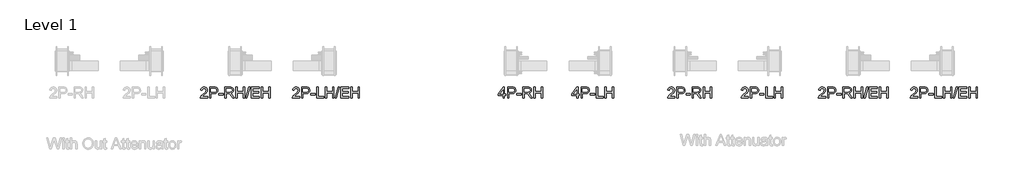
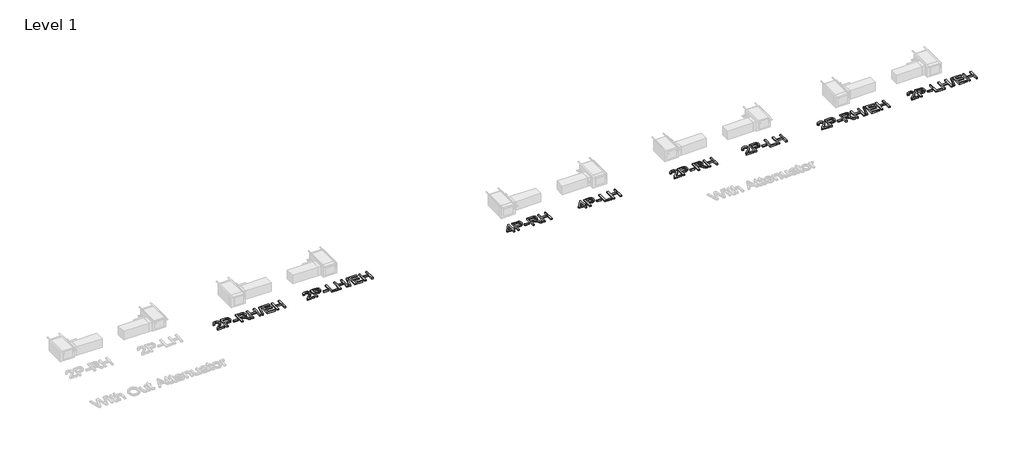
# One storey, part 4 of 4: 8 proxies.
"""IFC4 building model written with IfcOpenShell, lengths in millimetres."""

from ifc_helpers import new_model, si_unit, origin, origin_with_axes, place, context, project, spatial, polyline, outline, extrude, element, save

model = new_model("IFC4")

# Units and contexts
model_context = context("Model", 3, world=origin())
ifc_project = project(units=[si_unit("LENGTHUNIT", "METRE", prefix="MILLI")], contexts=[model_context])

# Site, building, storey
site = spatial("IfcSite", under=ifc_project)
building = spatial("IfcBuilding", under=site)
storey = spatial("IfcBuildingStorey", under=building, Name="Level 1", Elevation=0.0)

# Proxies
placement = place(None, origin())
element("IfcBuildingElementProxy", 1, Name="24\" Arial", ObjectType="24\" Arial", at=placement, inside=storey, context=model_context, shape_type="SweptSolid", body=[
    extrude(outline(polyline([(7491.7448278, 537.1633988), (7491.7448278, 480.0570687), (7191.9365945, 480.0570687), (7193.1913723, 500.1613968), (7198.0710636, 519.4292065), (7212.1524585, 550.1991456), (7232.7586977, 580.0489143), (7262.5666406, 611.2928806), (7304.2531462, 646.2454123), (7365.8766763, 700.9816066), (7402.8507943, 741.3854506), (7421.3378534, 774.1769761), (7427.5002064, 806.0762152), (7421.6864027, 834.6712062), (7404.2449918, 858.4422738), (7391.7285837, 867.7868826), (7377.4345737, 874.4616032), (7343.5137482, 879.8013797), (7307.8920017, 874.587081), (7293.0612257, 868.0692076), (7280.2171811, 858.9441849), (7269.8269241, 847.5187363), (7262.3575109, 834.0995852), (7257.8089416, 818.6867317), (7256.181216, 801.2801757), (7199.0748858, 808.418467), (7203.9859466, 837.8987734), (7212.9192671, 863.6565725), (7225.8748475, 885.6918642), (7242.8526877, 904.0046485), (7263.4624125, 918.3997378), (7287.3136464, 928.6819445), (7314.4063896, 934.8512685), (7344.740642, 936.9077098), (7375.3467629, 934.6212259), (7402.5858968, 927.7617741), (7426.4580437, 916.3293545), (7446.9632037, 900.3239671), (7463.4321618, 880.9306797), (7475.1957033, 859.3345602), (7482.2538282, 835.5356086), (7484.6065365, 809.533825), (7482.069097, 782.2214957), (7474.4567786, 755.3831936), (7460.9470047, 728.0848063), (7440.7171988, 699.3922215), (7408.4694103, 665.1367886), (7358.9056887, 621.149857), (7293.2111019, 566.218475), (7267.4463319, 537.1633988), (7491.7448278, 537.1633988)])), origin_with_axes(), (0.0, 0.0, 1.0), 50.8),
    extrude(outline(polyline([(7570.2660317, 480.0570687), (7570.2660317, 936.9077098), (7739.5773777, 936.9077098), (7807.8372879, 932.5578136), (7838.2726197, 924.4296421), (7863.326349, 911.1987077), (7883.500387, 892.2655054), (7899.2966448, 867.0305305), (7909.5021706, 837.2644135), (7912.9040125, 804.7377856), (7910.6070721, 776.6935026), (7903.7162509, 750.8938776), (7892.2315489, 727.3389106), (7876.1529661, 706.0286016), (7854.079334, 688.3641191), (7824.609484, 675.7466316), (7787.7434163, 668.1761392), (7743.4811307, 665.6526417), (7627.3723619, 665.6526417), (7627.3723619, 480.0570687), (7570.2660317, 480.0570687)]), holes=[polyline([(7627.3723619, 722.7589718), (7746.8272048, 722.7589718), (7797.4644585, 728.0011544), (7816.3418928, 734.5538828), (7830.9251988, 743.7277024), (7841.8069104, 755.2786288), (7849.5795615, 768.9626774), (7854.2431522, 784.7798482), (7855.7976824, 802.7301411), (7852.1309429, 828.3833754), (7841.1307246, 850.0213208), (7824.1633408, 866.3055477), (7802.5951053, 875.8976266), (7745.4887752, 879.8013797), (7627.3723619, 879.8013797), (7627.3723619, 722.7589718)])]), origin_with_axes(), (0.0, 0.0, 1.0), 50.8),
    extrude(outline(polyline([(7955.7337601, 615.6846028), (7955.7337601, 672.7909329), (8134.1910418, 672.7909329), (8134.1910418, 615.6846028), (7955.7337601, 615.6846028)])), origin_with_axes(), (0.0, 0.0, 1.0), 50.8),
    extrude(outline(polyline([(8205.5739545, 480.0570687), (8205.5739545, 936.9077098), (8262.6802846, 936.9077098), (8262.6802846, 537.1633988), (8491.1056052, 537.1633988), (8491.1056052, 480.0570687), (8205.5739545, 480.0570687)])), origin_with_axes(), (0.0, 0.0, 1.0), 50.8),
    extrude(outline(polyline([(8555.3502266, 480.0570687), (8555.3502266, 936.9077098), (8612.4565567, 936.9077098), (8612.4565567, 751.3121369), (8855.1584598, 751.3121369), (8855.1584598, 936.9077098), (8912.26479, 936.9077098), (8912.26479, 480.0570687), (8855.1584598, 480.0570687), (8855.1584598, 694.2058067), (8612.4565567, 694.2058067), (8612.4565567, 480.0570687), (8555.3502266, 480.0570687)])), origin_with_axes(), (0.0, 0.0, 1.0), 50.8),
    extrude(outline(polyline([(8962.2328288, 480.0570687), (9090.7220716, 936.9077098), (9142.2516117, 936.9077098), (9013.7623689, 480.0570687), (8962.2328288, 480.0570687)])), origin_with_axes(), (0.0, 0.0, 1.0), 50.8),
    extrude(outline(polyline([(9190.6581494, 480.0570687), (9190.6581494, 936.9077098), (9519.0195477, 936.9077098), (9519.0195477, 879.8013797), (9247.7644795, 879.8013797), (9247.7644795, 744.1738456), (9504.7429651, 744.1738456), (9504.7429651, 687.0675155), (9247.7644795, 687.0675155), (9247.7644795, 537.1633988), (9526.1578389, 537.1633988), (9526.1578389, 480.0570687), (9190.6581494, 480.0570687)])), origin_with_axes(), (0.0, 0.0, 1.0), 50.8),
    extrude(outline(polyline([(9611.8173341, 480.0570687), (9611.8173341, 936.9077098), (9668.9236643, 936.9077098), (9668.9236643, 751.3121369), (9911.6255674, 751.3121369), (9911.6255674, 936.9077098), (9968.7318975, 936.9077098), (9968.7318975, 480.0570687), (9911.6255674, 480.0570687), (9911.6255674, 694.2058067), (9668.9236643, 694.2058067), (9668.9236643, 480.0570687), (9611.8173341, 480.0570687)])), origin_with_axes(), (0.0, 0.0, 1.0), 50.8),
])
element("IfcBuildingElementProxy", 2, Name="24\" Arial", ObjectType="24\" Arial", at=placement, inside=storey, context=model_context, shape_type="SweptSolid", body=[
    extrude(outline(polyline([(3681.7448278, 537.1633988), (3681.7448278, 480.0570687), (3381.9365945, 480.0570687), (3383.1913723, 500.1613968), (3388.0710636, 519.4292065), (3402.1524585, 550.1991456), (3422.7586977, 580.0489143), (3452.5666406, 611.2928806), (3494.2531462, 646.2454123), (3555.8766763, 700.9816066), (3592.8507943, 741.3854506), (3611.3378534, 774.1769761), (3617.5002064, 806.0762152), (3611.6864027, 834.6712062), (3594.2449918, 858.4422738), (3581.7285837, 867.7868826), (3567.4345737, 874.4616032), (3533.5137482, 879.8013797), (3497.8920017, 874.587081), (3483.0612257, 868.0692076), (3470.2171811, 858.9441849), (3459.8269241, 847.5187363), (3452.3575109, 834.0995852), (3447.8089416, 818.6867317), (3446.181216, 801.2801757), (3389.0748858, 808.418467), (3393.9859466, 837.8987734), (3402.9192671, 863.6565725), (3415.8748475, 885.6918642), (3432.8526877, 904.0046485), (3453.4624125, 918.3997378), (3477.3136464, 928.6819445), (3504.4063896, 934.8512685), (3534.740642, 936.9077098), (3565.3467629, 934.6212259), (3592.5858968, 927.7617741), (3616.4580437, 916.3293545), (3636.9632037, 900.3239671), (3653.4321618, 880.9306797), (3665.1957033, 859.3345602), (3672.2538282, 835.5356086), (3674.6065365, 809.533825), (3672.069097, 782.2214957), (3664.4567786, 755.3831936), (3650.9470047, 728.0848063), (3630.7171988, 699.3922215), (3598.4694103, 665.1367886), (3548.9056887, 621.149857), (3483.2111019, 566.218475), (3457.4463319, 537.1633988), (3681.7448278, 537.1633988)])), origin_with_axes(), (0.0, 0.0, 1.0), 50.8),
    extrude(outline(polyline([(3760.2660317, 480.0570687), (3760.2660317, 936.9077098), (3929.5773777, 936.9077098), (3997.8372879, 932.5578136), (4028.2726197, 924.4296421), (4053.326349, 911.1987077), (4073.500387, 892.2655054), (4089.2966448, 867.0305305), (4099.5021706, 837.2644135), (4102.9040125, 804.7377856), (4100.6070721, 776.6935026), (4093.7162509, 750.8938776), (4082.2315489, 727.3389106), (4066.1529661, 706.0286016), (4044.079334, 688.3641191), (4014.609484, 675.7466316), (3977.7434163, 668.1761392), (3933.4811307, 665.6526417), (3817.3723619, 665.6526417), (3817.3723619, 480.0570687), (3760.2660317, 480.0570687)]), holes=[polyline([(3817.3723619, 722.7589718), (3936.8272048, 722.7589718), (3987.4644585, 728.0011544), (4006.3418928, 734.5538828), (4020.9251988, 743.7277024), (4031.8069104, 755.2786288), (4039.5795615, 768.9626774), (4044.2431522, 784.7798482), (4045.7976824, 802.7301411), (4042.1309429, 828.3833754), (4031.1307246, 850.0213208), (4014.1633408, 866.3055477), (3992.5951053, 875.8976266), (3935.4887752, 879.8013797), (3817.3723619, 879.8013797), (3817.3723619, 722.7589718)])]), origin_with_axes(), (0.0, 0.0, 1.0), 50.8),
    extrude(outline(polyline([(4145.7337601, 615.6846028), (4145.7337601, 672.7909329), (4324.1910418, 672.7909329), (4324.1910418, 615.6846028), (4145.7337601, 615.6846028)])), origin_with_axes(), (0.0, 0.0, 1.0), 50.8),
    extrude(outline(polyline([(4395.5739545, 480.0570687), (4395.5739545, 936.9077098), (4592.4346433, 936.9077098), (4645.344439, 933.8265333), (4683.8382323, 924.5830038), (4711.9731381, 907.5180262), (4733.8062712, 880.9725056), (4747.8179562, 848.0555023), (4752.4885179, 811.8760768), (4750.5540688, 788.4117327), (4744.7507217, 766.8713811), (4735.0784764, 747.2550221), (4721.5373331, 729.5626557), (4703.9530169, 714.3589318), (4682.1512533, 702.2085004), (4656.1320422, 693.1113617), (4625.8953837, 687.0675155), (4658.3523018, 662.641175), (4704.6396592, 603.8618079), (4780.8186113, 480.0570687), (4714.4548097, 480.0570687), (4655.0062277, 574.7509638), (4612.0649443, 637.434084), (4596.1013828, 655.7120134), (4581.8945102, 667.0468392), (4554.7355426, 677.9215798), (4521.6094097, 679.9292242), (4452.6802846, 679.9292242), (4452.6802846, 480.0570687), (4395.5739545, 480.0570687)]), holes=[polyline([(4452.6802846, 737.0355543), (4580.5003126, 737.0355543), (4617.2095332, 739.0571407), (4645.6929884, 745.1218999), (4667.1357461, 755.6341492), (4682.7228743, 770.9982057), (4692.2173594, 789.5828586), (4695.3821877, 809.7568966), (4693.8729689, 824.3611156), (4689.3453125, 837.6129629), (4681.7992184, 849.5124387), (4671.2346868, 860.0595429), (4657.407733, 868.6965965), (4640.0743724, 874.8659205), (4594.888431, 879.8013797), (4452.6802846, 879.8013797), (4452.6802846, 737.0355543)])]), origin_with_axes(), (0.0, 0.0, 1.0), 50.8),
    extrude(outline(polyline([(4852.4245956, 480.0570687), (4852.4245956, 936.9077098), (4909.5309257, 936.9077098), (4909.5309257, 751.3121369), (5152.2328288, 751.3121369), (5152.2328288, 936.9077098), (5209.339159, 936.9077098), (5209.339159, 480.0570687), (5152.2328288, 480.0570687), (5152.2328288, 694.2058067), (4909.5309257, 694.2058067), (4909.5309257, 480.0570687), (4852.4245956, 480.0570687)])), origin_with_axes(), (0.0, 0.0, 1.0), 50.8),
    extrude(outline(polyline([(5259.3071978, 480.0570687), (5387.7964406, 936.9077098), (5439.3259807, 936.9077098), (5310.8367379, 480.0570687), (5259.3071978, 480.0570687)])), origin_with_axes(), (0.0, 0.0, 1.0), 50.8),
    extrude(outline(polyline([(5487.7325184, 480.0570687), (5487.7325184, 936.9077098), (5816.0939167, 936.9077098), (5816.0939167, 879.8013797), (5544.8388485, 879.8013797), (5544.8388485, 744.1738456), (5801.8173341, 744.1738456), (5801.8173341, 687.0675155), (5544.8388485, 687.0675155), (5544.8388485, 537.1633988), (5823.2322079, 537.1633988), (5823.2322079, 480.0570687), (5487.7325184, 480.0570687)])), origin_with_axes(), (0.0, 0.0, 1.0), 50.8),
    extrude(outline(polyline([(5908.8917031, 480.0570687), (5908.8917031, 936.9077098), (5965.9980333, 936.9077098), (5965.9980333, 751.3121369), (6208.6999364, 751.3121369), (6208.6999364, 936.9077098), (6265.8062665, 936.9077098), (6265.8062665, 480.0570687), (6208.6999364, 480.0570687), (6208.6999364, 694.2058067), (5965.9980333, 694.2058067), (5965.9980333, 480.0570687), (5908.8917031, 480.0570687)])), origin_with_axes(), (0.0, 0.0, 1.0), 50.8),
])
element("IfcBuildingElementProxy", 3, Name="24\" Arial", ObjectType="24\" Arial", at=placement, inside=storey, context=model_context, shape_type="SweptSolid", body=[
    extrude(outline(polyline([(481.3448278, 537.1633988), (481.3448278, 480.0570687), (181.5365945, 480.0570687), (182.7913723, 500.1613968), (187.6710636, 519.4292065), (201.7524585, 550.1991456), (222.3586977, 580.0489143), (252.1666406, 611.2928806), (293.8531462, 646.2454123), (355.4766763, 700.9816066), (392.4507943, 741.3854506), (410.9378534, 774.1769761), (417.1002064, 806.0762152), (411.2864027, 834.6712062), (393.8449918, 858.4422738), (381.3285837, 867.7868826), (367.0345737, 874.4616032), (333.1137482, 879.8013797), (297.4920017, 874.587081), (282.6612257, 868.0692076), (269.8171811, 858.9441849), (259.4269241, 847.5187363), (251.9575109, 834.0995852), (247.4089416, 818.6867317), (245.781216, 801.2801757), (188.6748858, 808.418467), (193.5859466, 837.8987734), (202.5192671, 863.6565725), (215.4748475, 885.6918642), (232.4526877, 904.0046485), (253.0624125, 918.3997378), (276.9136464, 928.6819445), (304.0063896, 934.8512685), (334.340642, 936.9077098), (364.9467629, 934.6212259), (392.1858968, 927.7617741), (416.0580437, 916.3293545), (436.5632037, 900.3239671), (453.0321618, 880.9306797), (464.7957033, 859.3345602), (471.8538282, 835.5356086), (474.2065365, 809.533825), (471.669097, 782.2214957), (464.0567786, 755.3831936), (450.5470047, 728.0848063), (430.3171988, 699.3922215), (398.0694103, 665.1367886), (348.5056887, 621.149857), (282.8111019, 566.218475), (257.0463319, 537.1633988), (481.3448278, 537.1633988)])), origin_with_axes(), (0.0, 0.0, 1.0), 50.8),
    extrude(outline(polyline([(559.8660317, 480.0570687), (559.8660317, 936.9077098), (729.1773777, 936.9077098), (797.4372879, 932.5578136), (827.8726197, 924.4296421), (852.926349, 911.1987077), (873.100387, 892.2655054), (888.8966448, 867.0305305), (899.1021706, 837.2644135), (902.5040125, 804.7377856), (900.2070721, 776.6935026), (893.3162509, 750.8938776), (881.8315489, 727.3389106), (865.7529661, 706.0286016), (843.679334, 688.3641191), (814.209484, 675.7466316), (777.3434163, 668.1761392), (733.0811307, 665.6526417), (616.9723619, 665.6526417), (616.9723619, 480.0570687), (559.8660317, 480.0570687)]), holes=[polyline([(616.9723619, 722.7589718), (736.4272048, 722.7589718), (787.0644585, 728.0011544), (805.9418928, 734.5538828), (820.5251988, 743.7277024), (831.4069104, 755.2786288), (839.1795615, 768.9626774), (843.8431522, 784.7798482), (845.3976824, 802.7301411), (841.7309429, 828.3833754), (830.7307246, 850.0213208), (813.7633408, 866.3055477), (792.1951053, 875.8976266), (735.0887752, 879.8013797), (616.9723619, 879.8013797), (616.9723619, 722.7589718)])]), origin_with_axes(), (0.0, 0.0, 1.0), 50.8),
    extrude(outline(polyline([(945.3337601, 615.6846028), (945.3337601, 672.7909329), (1123.7910418, 672.7909329), (1123.7910418, 615.6846028), (945.3337601, 615.6846028)])), origin_with_axes(), (0.0, 0.0, 1.0), 50.8),
    extrude(outline(polyline([(1195.1739545, 480.0570687), (1195.1739545, 936.9077098), (1252.2802846, 936.9077098), (1252.2802846, 537.1633988), (1480.7056052, 537.1633988), (1480.7056052, 480.0570687), (1195.1739545, 480.0570687)])), origin_with_axes(), (0.0, 0.0, 1.0), 50.8),
    extrude(outline(polyline([(1544.9502266, 480.0570687), (1544.9502266, 936.9077098), (1602.0565567, 936.9077098), (1602.0565567, 751.3121369), (1844.7584598, 751.3121369), (1844.7584598, 936.9077098), (1901.86479, 936.9077098), (1901.86479, 480.0570687), (1844.7584598, 480.0570687), (1844.7584598, 694.2058067), (1602.0565567, 694.2058067), (1602.0565567, 480.0570687), (1544.9502266, 480.0570687)])), origin_with_axes(), (0.0, 0.0, 1.0), 50.8),
])
element("IfcBuildingElementProxy", 4, Name="24\" Arial", ObjectType="24\" Arial", at=placement, inside=storey, context=model_context, shape_type="SweptSolid", body=[
    extrude(outline(polyline([(-2566.6551722, 537.1633988), (-2566.6551722, 480.0570687), (-2866.4634055, 480.0570687), (-2865.2086277, 500.1613968), (-2860.3289364, 519.4292065), (-2846.2475415, 550.1991456), (-2825.6413023, 580.0489143), (-2795.8333594, 611.2928806), (-2754.1468538, 646.2454123), (-2692.5233237, 700.9816066), (-2655.5492057, 741.3854506), (-2637.0621466, 774.1769761), (-2630.8997936, 806.0762152), (-2636.7135973, 834.6712062), (-2654.1550082, 858.4422738), (-2666.6714163, 867.7868826), (-2680.9654263, 874.4616032), (-2714.8862518, 879.8013797), (-2750.5079983, 874.587081), (-2765.3387743, 868.0692076), (-2778.1828189, 858.9441849), (-2788.5730759, 847.5187363), (-2796.0424891, 834.0995852), (-2800.5910584, 818.6867317), (-2802.218784, 801.2801757), (-2859.3251142, 808.418467), (-2854.4140534, 837.8987734), (-2845.4807329, 863.6565725), (-2832.5251525, 885.6918642), (-2815.5473123, 904.0046485), (-2794.9375875, 918.3997378), (-2771.0863536, 928.6819445), (-2743.9936104, 934.8512685), (-2713.659358, 936.9077098), (-2683.0532371, 934.6212259), (-2655.8141032, 927.7617741), (-2631.9419563, 916.3293545), (-2611.4367963, 900.3239671), (-2594.9678382, 880.9306797), (-2583.2042967, 859.3345602), (-2576.1461718, 835.5356086), (-2573.7934635, 809.533825), (-2576.330903, 782.2214957), (-2583.9432214, 755.3831936), (-2597.4529953, 728.0848063), (-2617.6828012, 699.3922215), (-2649.9305897, 665.1367886), (-2699.4943113, 621.149857), (-2765.1888981, 566.218475), (-2790.9536681, 537.1633988), (-2566.6551722, 537.1633988)])), origin_with_axes(), (0.0, 0.0, 1.0), 50.8),
    extrude(outline(polyline([(-2488.1339683, 480.0570687), (-2488.1339683, 936.9077098), (-2318.8226223, 936.9077098), (-2250.5627121, 932.5578136), (-2220.1273803, 924.4296421), (-2195.073651, 911.1987077), (-2174.899613, 892.2655054), (-2159.1033552, 867.0305305), (-2148.8978294, 837.2644135), (-2145.4959875, 804.7377856), (-2147.7929279, 776.6935026), (-2154.6837491, 750.8938776), (-2166.1684511, 727.3389106), (-2182.2470339, 706.0286016), (-2204.320666, 688.3641191), (-2233.790516, 675.7466316), (-2270.6565837, 668.1761392), (-2314.9188693, 665.6526417), (-2431.0276381, 665.6526417), (-2431.0276381, 480.0570687), (-2488.1339683, 480.0570687)]), holes=[polyline([(-2431.0276381, 722.7589718), (-2311.5727952, 722.7589718), (-2260.9355415, 728.0011544), (-2242.0581072, 734.5538828), (-2227.4748012, 743.7277024), (-2216.5930896, 755.2786288), (-2208.8204385, 768.9626774), (-2204.1568478, 784.7798482), (-2202.6023176, 802.7301411), (-2206.2690571, 828.3833754), (-2217.2692754, 850.0213208), (-2234.2366592, 866.3055477), (-2255.8048947, 875.8976266), (-2312.9112248, 879.8013797), (-2431.0276381, 879.8013797), (-2431.0276381, 722.7589718)])]), origin_with_axes(), (0.0, 0.0, 1.0), 50.8),
    extrude(outline(polyline([(-2102.6662399, 615.6846028), (-2102.6662399, 672.7909329), (-1924.2089582, 672.7909329), (-1924.2089582, 615.6846028), (-2102.6662399, 615.6846028)])), origin_with_axes(), (0.0, 0.0, 1.0), 50.8),
    extrude(outline(polyline([(-1852.8260455, 480.0570687), (-1852.8260455, 936.9077098), (-1655.9653567, 936.9077098), (-1603.055561, 933.8265333), (-1564.5617677, 924.5830038), (-1536.4268619, 907.5180262), (-1514.5937288, 880.9725056), (-1500.5820438, 848.0555023), (-1495.9114821, 811.8760768), (-1497.8459312, 788.4117327), (-1503.6492783, 766.8713811), (-1513.3215236, 747.2550221), (-1526.8626669, 729.5626557), (-1544.4469831, 714.3589318), (-1566.2487467, 702.2085004), (-1592.2679578, 693.1113617), (-1622.5046163, 687.0675155), (-1590.0476982, 662.641175), (-1543.7603408, 603.8618079), (-1467.5813887, 480.0570687), (-1533.9451903, 480.0570687), (-1593.3937723, 574.7509638), (-1636.3350557, 637.434084), (-1652.2986172, 655.7120134), (-1666.5054898, 667.0468392), (-1693.6644574, 677.9215798), (-1726.7905903, 679.9292242), (-1795.7197154, 679.9292242), (-1795.7197154, 480.0570687), (-1852.8260455, 480.0570687)]), holes=[polyline([(-1795.7197154, 737.0355543), (-1667.8996874, 737.0355543), (-1631.1904668, 739.0571407), (-1602.7070116, 745.1218999), (-1581.2642539, 755.6341492), (-1565.6771257, 770.9982057), (-1556.1826406, 789.5828586), (-1553.0178123, 809.7568966), (-1554.5270311, 824.3611156), (-1559.0546875, 837.6129629), (-1566.6007816, 849.5124387), (-1577.1653132, 860.0595429), (-1590.992267, 868.6965965), (-1608.3256276, 874.8659205), (-1653.511569, 879.8013797), (-1795.7197154, 879.8013797), (-1795.7197154, 737.0355543)])]), origin_with_axes(), (0.0, 0.0, 1.0), 50.8),
    extrude(outline(polyline([(-1395.9754044, 480.0570687), (-1395.9754044, 936.9077098), (-1338.8690743, 936.9077098), (-1338.8690743, 751.3121369), (-1096.1671712, 751.3121369), (-1096.1671712, 936.9077098), (-1039.060841, 936.9077098), (-1039.060841, 480.0570687), (-1096.1671712, 480.0570687), (-1096.1671712, 694.2058067), (-1338.8690743, 694.2058067), (-1338.8690743, 480.0570687), (-1395.9754044, 480.0570687)])), origin_with_axes(), (0.0, 0.0, 1.0), 50.8),
])
element("IfcBuildingElementProxy", 5, Name="24\" Arial", ObjectType="24\" Arial", at=placement, inside=storey, context=model_context, shape_type="SweptSolid", body=[
    extrude(outline(polyline([(-6636.1295412, 480.0570687), (-6636.1295412, 587.1314377), (-6843.139988, 587.1314377), (-6843.139988, 644.2377679), (-6621.8529587, 929.7694185), (-6579.0232111, 929.7694185), (-6579.0232111, 644.2377679), (-6521.916881, 644.2377679), (-6521.916881, 587.1314377), (-6579.0232111, 587.1314377), (-6579.0232111, 480.0570687), (-6636.1295412, 480.0570687)]), holes=[polyline([(-6636.1295412, 644.2377679), (-6636.1295412, 820.6874051), (-6772.8724333, 644.2377679), (-6636.1295412, 644.2377679)])]), origin_with_axes(), (0.0, 0.0, 1.0), 50.8),
    extrude(outline(polyline([(-6450.5339683, 480.0570687), (-6450.5339683, 936.9077098), (-6281.2226223, 936.9077098), (-6212.9627121, 932.5578136), (-6182.5273803, 924.4296421), (-6157.473651, 911.1987077), (-6137.299613, 892.2655054), (-6121.5033552, 867.0305305), (-6111.2978294, 837.2644135), (-6107.8959875, 804.7377856), (-6110.1929279, 776.6935026), (-6117.0837491, 750.8938776), (-6128.5684511, 727.3389106), (-6144.6470339, 706.0286016), (-6166.720666, 688.3641191), (-6196.190516, 675.7466316), (-6233.0565837, 668.1761392), (-6277.3188693, 665.6526417), (-6393.4276381, 665.6526417), (-6393.4276381, 480.0570687), (-6450.5339683, 480.0570687)]), holes=[polyline([(-6393.4276381, 722.7589718), (-6273.9727952, 722.7589718), (-6223.3355415, 728.0011544), (-6204.4581072, 734.5538828), (-6189.8748012, 743.7277024), (-6178.9930896, 755.2786288), (-6171.2204385, 768.9626774), (-6166.5568478, 784.7798482), (-6165.0023176, 802.7301411), (-6168.6690571, 828.3833754), (-6179.6692754, 850.0213208), (-6196.6366592, 866.3055477), (-6218.2048947, 875.8976266), (-6275.3112248, 879.8013797), (-6393.4276381, 879.8013797), (-6393.4276381, 722.7589718)])]), origin_with_axes(), (0.0, 0.0, 1.0), 50.8),
    extrude(outline(polyline([(-6065.0662399, 615.6846028), (-6065.0662399, 672.7909329), (-5886.6089582, 672.7909329), (-5886.6089582, 615.6846028), (-6065.0662399, 615.6846028)])), origin_with_axes(), (0.0, 0.0, 1.0), 50.8),
    extrude(outline(polyline([(-5815.2260455, 480.0570687), (-5815.2260455, 936.9077098), (-5758.1197154, 936.9077098), (-5758.1197154, 537.1633988), (-5529.6943948, 537.1633988), (-5529.6943948, 480.0570687), (-5815.2260455, 480.0570687)])), origin_with_axes(), (0.0, 0.0, 1.0), 50.8),
    extrude(outline(polyline([(-5465.4497734, 480.0570687), (-5465.4497734, 936.9077098), (-5408.3434433, 936.9077098), (-5408.3434433, 751.3121369), (-5165.6415402, 751.3121369), (-5165.6415402, 936.9077098), (-5108.53521, 936.9077098), (-5108.53521, 480.0570687), (-5165.6415402, 480.0570687), (-5165.6415402, 694.2058067), (-5408.3434433, 694.2058067), (-5408.3434433, 480.0570687), (-5465.4497734, 480.0570687)])), origin_with_axes(), (0.0, 0.0, 1.0), 50.8),
])
element("IfcBuildingElementProxy", 6, Name="24\" Arial", ObjectType="24\" Arial", at=placement, inside=storey, context=model_context, shape_type="SweptSolid", body=[
    extrude(outline(polyline([(-9684.1295412, 480.0570687), (-9684.1295412, 587.1314377), (-9891.139988, 587.1314377), (-9891.139988, 644.2377679), (-9669.8529587, 929.7694185), (-9627.0232111, 929.7694185), (-9627.0232111, 644.2377679), (-9569.916881, 644.2377679), (-9569.916881, 587.1314377), (-9627.0232111, 587.1314377), (-9627.0232111, 480.0570687), (-9684.1295412, 480.0570687)]), holes=[polyline([(-9684.1295412, 644.2377679), (-9684.1295412, 820.6874051), (-9820.8724333, 644.2377679), (-9684.1295412, 644.2377679)])]), origin_with_axes(), (0.0, 0.0, 1.0), 50.8),
    extrude(outline(polyline([(-9498.5339683, 480.0570687), (-9498.5339683, 936.9077098), (-9329.2226223, 936.9077098), (-9260.9627121, 932.5578136), (-9230.5273803, 924.4296421), (-9205.473651, 911.1987077), (-9185.299613, 892.2655054), (-9169.5033552, 867.0305305), (-9159.2978294, 837.2644135), (-9155.8959875, 804.7377856), (-9158.1929279, 776.6935026), (-9165.0837491, 750.8938776), (-9176.5684511, 727.3389106), (-9192.6470339, 706.0286016), (-9214.720666, 688.3641191), (-9244.190516, 675.7466316), (-9281.0565837, 668.1761392), (-9325.3188693, 665.6526417), (-9441.4276381, 665.6526417), (-9441.4276381, 480.0570687), (-9498.5339683, 480.0570687)]), holes=[polyline([(-9441.4276381, 722.7589718), (-9321.9727952, 722.7589718), (-9271.3355415, 728.0011544), (-9252.4581072, 734.5538828), (-9237.8748012, 743.7277024), (-9226.9930896, 755.2786288), (-9219.2204385, 768.9626774), (-9214.5568478, 784.7798482), (-9213.0023176, 802.7301411), (-9216.6690571, 828.3833754), (-9227.6692754, 850.0213208), (-9244.6366592, 866.3055477), (-9266.2048947, 875.8976266), (-9323.3112248, 879.8013797), (-9441.4276381, 879.8013797), (-9441.4276381, 722.7589718)])]), origin_with_axes(), (0.0, 0.0, 1.0), 50.8),
    extrude(outline(polyline([(-9113.0662399, 615.6846028), (-9113.0662399, 672.7909329), (-8934.6089582, 672.7909329), (-8934.6089582, 615.6846028), (-9113.0662399, 615.6846028)])), origin_with_axes(), (0.0, 0.0, 1.0), 50.8),
    extrude(outline(polyline([(-8863.2260455, 480.0570687), (-8863.2260455, 936.9077098), (-8666.3653567, 936.9077098), (-8613.455561, 933.8265333), (-8574.9617677, 924.5830038), (-8546.8268619, 907.5180262), (-8524.9937288, 880.9725056), (-8510.9820438, 848.0555023), (-8506.3114821, 811.8760768), (-8508.2459312, 788.4117327), (-8514.0492783, 766.8713811), (-8523.7215236, 747.2550221), (-8537.2626669, 729.5626557), (-8554.8469831, 714.3589318), (-8576.6487467, 702.2085004), (-8602.6679578, 693.1113617), (-8632.9046163, 687.0675155), (-8600.4476982, 662.641175), (-8554.1603408, 603.8618079), (-8477.9813887, 480.0570687), (-8544.3451903, 480.0570687), (-8603.7937723, 574.7509638), (-8646.7350557, 637.434084), (-8662.6986172, 655.7120134), (-8676.9054898, 667.0468392), (-8704.0644574, 677.9215798), (-8737.1905903, 679.9292242), (-8806.1197154, 679.9292242), (-8806.1197154, 480.0570687), (-8863.2260455, 480.0570687)]), holes=[polyline([(-8806.1197154, 737.0355543), (-8678.2996874, 737.0355543), (-8641.5904668, 739.0571407), (-8613.1070116, 745.1218999), (-8591.6642539, 755.6341492), (-8576.0771257, 770.9982057), (-8566.5826406, 789.5828586), (-8563.4178123, 809.7568966), (-8564.9270311, 824.3611156), (-8569.4546875, 837.6129629), (-8577.0007816, 849.5124387), (-8587.5653132, 860.0595429), (-8601.392267, 868.6965965), (-8618.7256276, 874.8659205), (-8663.911569, 879.8013797), (-8806.1197154, 879.8013797), (-8806.1197154, 737.0355543)])]), origin_with_axes(), (0.0, 0.0, 1.0), 50.8),
    extrude(outline(polyline([(-8406.3754044, 480.0570687), (-8406.3754044, 936.9077098), (-8349.2690743, 936.9077098), (-8349.2690743, 751.3121369), (-8106.5671712, 751.3121369), (-8106.5671712, 936.9077098), (-8049.460841, 936.9077098), (-8049.460841, 480.0570687), (-8106.5671712, 480.0570687), (-8106.5671712, 694.2058067), (-8349.2690743, 694.2058067), (-8349.2690743, 480.0570687), (-8406.3754044, 480.0570687)])), origin_with_axes(), (0.0, 0.0, 1.0), 50.8),
])
element("IfcBuildingElementProxy", 7, Name="24\" Arial", ObjectType="24\" Arial", at=placement, inside=storey, context=model_context, shape_type="SweptSolid", body=[
    extrude(outline(polyline([(-18111.4551722, 537.1633988), (-18111.4551722, 480.0570687), (-18411.2634055, 480.0570687), (-18410.0086277, 500.1613968), (-18405.1289364, 519.4292065), (-18391.0475415, 550.1991456), (-18370.4413023, 580.0489143), (-18340.6333594, 611.2928806), (-18298.9468538, 646.2454123), (-18237.3233237, 700.9816066), (-18200.3492057, 741.3854506), (-18181.8621466, 774.1769761), (-18175.6997936, 806.0762152), (-18181.5135973, 834.6712062), (-18198.9550082, 858.4422738), (-18211.4714163, 867.7868826), (-18225.7654263, 874.4616032), (-18259.6862518, 879.8013797), (-18295.3079983, 874.587081), (-18310.1387743, 868.0692076), (-18322.9828189, 858.9441849), (-18333.3730759, 847.5187363), (-18340.8424891, 834.0995852), (-18345.3910584, 818.6867317), (-18347.018784, 801.2801757), (-18404.1251142, 808.418467), (-18399.2140534, 837.8987734), (-18390.2807329, 863.6565725), (-18377.3251525, 885.6918642), (-18360.3473123, 904.0046485), (-18339.7375875, 918.3997378), (-18315.8863536, 928.6819445), (-18288.7936104, 934.8512685), (-18258.459358, 936.9077098), (-18227.8532371, 934.6212259), (-18200.6141032, 927.7617741), (-18176.7419563, 916.3293545), (-18156.2367963, 900.3239671), (-18139.7678382, 880.9306797), (-18128.0042967, 859.3345602), (-18120.9461718, 835.5356086), (-18118.5934635, 809.533825), (-18121.130903, 782.2214957), (-18128.7432214, 755.3831936), (-18142.2529953, 728.0848063), (-18162.4828012, 699.3922215), (-18194.7305897, 665.1367886), (-18244.2943113, 621.149857), (-18309.9888981, 566.218475), (-18335.7536681, 537.1633988), (-18111.4551722, 537.1633988)])), origin_with_axes(), (0.0, 0.0, 1.0), 50.8),
    extrude(outline(polyline([(-18032.9339683, 480.0570687), (-18032.9339683, 936.9077098), (-17863.6226223, 936.9077098), (-17795.3627121, 932.5578136), (-17764.9273803, 924.4296421), (-17739.873651, 911.1987077), (-17719.699613, 892.2655054), (-17703.9033552, 867.0305305), (-17693.6978294, 837.2644135), (-17690.2959875, 804.7377856), (-17692.5929279, 776.6935026), (-17699.4837491, 750.8938776), (-17710.9684511, 727.3389106), (-17727.0470339, 706.0286016), (-17749.120666, 688.3641191), (-17778.590516, 675.7466316), (-17815.4565837, 668.1761392), (-17859.7188693, 665.6526417), (-17975.8276381, 665.6526417), (-17975.8276381, 480.0570687), (-18032.9339683, 480.0570687)]), holes=[polyline([(-17975.8276381, 722.7589718), (-17856.3727952, 722.7589718), (-17805.7355415, 728.0011544), (-17786.8581072, 734.5538828), (-17772.2748012, 743.7277024), (-17761.3930896, 755.2786288), (-17753.6204385, 768.9626774), (-17748.9568478, 784.7798482), (-17747.4023176, 802.7301411), (-17751.0690571, 828.3833754), (-17762.0692754, 850.0213208), (-17779.0366592, 866.3055477), (-17800.6048947, 875.8976266), (-17857.7112248, 879.8013797), (-17975.8276381, 879.8013797), (-17975.8276381, 722.7589718)])]), origin_with_axes(), (0.0, 0.0, 1.0), 50.8),
    extrude(outline(polyline([(-17647.4662399, 615.6846028), (-17647.4662399, 672.7909329), (-17469.0089582, 672.7909329), (-17469.0089582, 615.6846028), (-17647.4662399, 615.6846028)])), origin_with_axes(), (0.0, 0.0, 1.0), 50.8),
    extrude(outline(polyline([(-17397.6260455, 480.0570687), (-17397.6260455, 936.9077098), (-17340.5197154, 936.9077098), (-17340.5197154, 537.1633988), (-17112.0943948, 537.1633988), (-17112.0943948, 480.0570687), (-17397.6260455, 480.0570687)])), origin_with_axes(), (0.0, 0.0, 1.0), 50.8),
    extrude(outline(polyline([(-17047.8497734, 480.0570687), (-17047.8497734, 936.9077098), (-16990.7434433, 936.9077098), (-16990.7434433, 751.3121369), (-16748.0415402, 751.3121369), (-16748.0415402, 936.9077098), (-16690.93521, 936.9077098), (-16690.93521, 480.0570687), (-16748.0415402, 480.0570687), (-16748.0415402, 694.2058067), (-16990.7434433, 694.2058067), (-16990.7434433, 480.0570687), (-17047.8497734, 480.0570687)])), origin_with_axes(), (0.0, 0.0, 1.0), 50.8),
    extrude(outline(polyline([(-16640.9671712, 480.0570687), (-16512.4779284, 936.9077098), (-16460.9483883, 936.9077098), (-16589.4376311, 480.0570687), (-16640.9671712, 480.0570687)])), origin_with_axes(), (0.0, 0.0, 1.0), 50.8),
    extrude(outline(polyline([(-16412.5418506, 480.0570687), (-16412.5418506, 936.9077098), (-16084.1804523, 936.9077098), (-16084.1804523, 879.8013797), (-16355.4355205, 879.8013797), (-16355.4355205, 744.1738456), (-16098.4570349, 744.1738456), (-16098.4570349, 687.0675155), (-16355.4355205, 687.0675155), (-16355.4355205, 537.1633988), (-16077.0421611, 537.1633988), (-16077.0421611, 480.0570687), (-16412.5418506, 480.0570687)])), origin_with_axes(), (0.0, 0.0, 1.0), 50.8),
    extrude(outline(polyline([(-15991.3826659, 480.0570687), (-15991.3826659, 936.9077098), (-15934.2763357, 936.9077098), (-15934.2763357, 751.3121369), (-15691.5744326, 751.3121369), (-15691.5744326, 936.9077098), (-15634.4681025, 936.9077098), (-15634.4681025, 480.0570687), (-15691.5744326, 480.0570687), (-15691.5744326, 694.2058067), (-15934.2763357, 694.2058067), (-15934.2763357, 480.0570687), (-15991.3826659, 480.0570687)])), origin_with_axes(), (0.0, 0.0, 1.0), 50.8),
])
element("IfcBuildingElementProxy", 8, Name="24\" Arial", ObjectType="24\" Arial", at=placement, inside=storey, context=model_context, shape_type="SweptSolid", body=[
    extrude(outline(polyline([(-21921.4551722, 537.1633988), (-21921.4551722, 480.0570687), (-22221.2634055, 480.0570687), (-22220.0086277, 500.1613968), (-22215.1289364, 519.4292065), (-22201.0475415, 550.1991456), (-22180.4413023, 580.0489143), (-22150.6333594, 611.2928806), (-22108.9468538, 646.2454123), (-22047.3233237, 700.9816066), (-22010.3492057, 741.3854506), (-21991.8621466, 774.1769761), (-21985.6997936, 806.0762152), (-21991.5135973, 834.6712062), (-22008.9550082, 858.4422738), (-22021.4714163, 867.7868826), (-22035.7654263, 874.4616032), (-22069.6862518, 879.8013797), (-22105.3079983, 874.587081), (-22120.1387743, 868.0692076), (-22132.9828189, 858.9441849), (-22143.3730759, 847.5187363), (-22150.8424891, 834.0995852), (-22155.3910584, 818.6867317), (-22157.018784, 801.2801757), (-22214.1251142, 808.418467), (-22209.2140534, 837.8987734), (-22200.2807329, 863.6565725), (-22187.3251525, 885.6918642), (-22170.3473123, 904.0046485), (-22149.7375875, 918.3997378), (-22125.8863536, 928.6819445), (-22098.7936104, 934.8512685), (-22068.459358, 936.9077098), (-22037.8532371, 934.6212259), (-22010.6141032, 927.7617741), (-21986.7419563, 916.3293545), (-21966.2367963, 900.3239671), (-21949.7678382, 880.9306797), (-21938.0042967, 859.3345602), (-21930.9461718, 835.5356086), (-21928.5934635, 809.533825), (-21931.130903, 782.2214957), (-21938.7432214, 755.3831936), (-21952.2529953, 728.0848063), (-21972.4828012, 699.3922215), (-22004.7305897, 665.1367886), (-22054.2943113, 621.149857), (-22119.9888981, 566.218475), (-22145.7536681, 537.1633988), (-21921.4551722, 537.1633988)])), origin_with_axes(), (0.0, 0.0, 1.0), 50.8),
    extrude(outline(polyline([(-21842.9339683, 480.0570687), (-21842.9339683, 936.9077098), (-21673.6226223, 936.9077098), (-21605.3627121, 932.5578136), (-21574.9273803, 924.4296421), (-21549.873651, 911.1987077), (-21529.699613, 892.2655054), (-21513.9033552, 867.0305305), (-21503.6978294, 837.2644135), (-21500.2959875, 804.7377856), (-21502.5929279, 776.6935026), (-21509.4837491, 750.8938776), (-21520.9684511, 727.3389106), (-21537.0470339, 706.0286016), (-21559.120666, 688.3641191), (-21588.590516, 675.7466316), (-21625.4565837, 668.1761392), (-21669.7188693, 665.6526417), (-21785.8276381, 665.6526417), (-21785.8276381, 480.0570687), (-21842.9339683, 480.0570687)]), holes=[polyline([(-21785.8276381, 722.7589718), (-21666.3727952, 722.7589718), (-21615.7355415, 728.0011544), (-21596.8581072, 734.5538828), (-21582.2748012, 743.7277024), (-21571.3930896, 755.2786288), (-21563.6204385, 768.9626774), (-21558.9568478, 784.7798482), (-21557.4023176, 802.7301411), (-21561.0690571, 828.3833754), (-21572.0692754, 850.0213208), (-21589.0366592, 866.3055477), (-21610.6048947, 875.8976266), (-21667.7112248, 879.8013797), (-21785.8276381, 879.8013797), (-21785.8276381, 722.7589718)])]), origin_with_axes(), (0.0, 0.0, 1.0), 50.8),
    extrude(outline(polyline([(-21457.4662399, 615.6846028), (-21457.4662399, 672.7909329), (-21279.0089582, 672.7909329), (-21279.0089582, 615.6846028), (-21457.4662399, 615.6846028)])), origin_with_axes(), (0.0, 0.0, 1.0), 50.8),
    extrude(outline(polyline([(-21207.6260455, 480.0570687), (-21207.6260455, 936.9077098), (-21010.7653567, 936.9077098), (-20957.855561, 933.8265333), (-20919.3617677, 924.5830038), (-20891.2268619, 907.5180262), (-20869.3937288, 880.9725056), (-20855.3820438, 848.0555023), (-20850.7114821, 811.8760768), (-20852.6459312, 788.4117327), (-20858.4492783, 766.8713811), (-20868.1215236, 747.2550221), (-20881.6626669, 729.5626557), (-20899.2469831, 714.3589318), (-20921.0487467, 702.2085004), (-20947.0679578, 693.1113617), (-20977.3046163, 687.0675155), (-20944.8476982, 662.641175), (-20898.5603408, 603.8618079), (-20822.3813887, 480.0570687), (-20888.7451903, 480.0570687), (-20948.1937723, 574.7509638), (-20991.1350557, 637.434084), (-21007.0986172, 655.7120134), (-21021.3054898, 667.0468392), (-21048.4644574, 677.9215798), (-21081.5905903, 679.9292242), (-21150.5197154, 679.9292242), (-21150.5197154, 480.0570687), (-21207.6260455, 480.0570687)]), holes=[polyline([(-21150.5197154, 737.0355543), (-21022.6996874, 737.0355543), (-20985.9904668, 739.0571407), (-20957.5070116, 745.1218999), (-20936.0642539, 755.6341492), (-20920.4771257, 770.9982057), (-20910.9826406, 789.5828586), (-20907.8178123, 809.7568966), (-20909.3270311, 824.3611156), (-20913.8546875, 837.6129629), (-20921.4007816, 849.5124387), (-20931.9653132, 860.0595429), (-20945.792267, 868.6965965), (-20963.1256276, 874.8659205), (-21008.311569, 879.8013797), (-21150.5197154, 879.8013797), (-21150.5197154, 737.0355543)])]), origin_with_axes(), (0.0, 0.0, 1.0), 50.8),
    extrude(outline(polyline([(-20750.7754044, 480.0570687), (-20750.7754044, 936.9077098), (-20693.6690743, 936.9077098), (-20693.6690743, 751.3121369), (-20450.9671712, 751.3121369), (-20450.9671712, 936.9077098), (-20393.860841, 936.9077098), (-20393.860841, 480.0570687), (-20450.9671712, 480.0570687), (-20450.9671712, 694.2058067), (-20693.6690743, 694.2058067), (-20693.6690743, 480.0570687), (-20750.7754044, 480.0570687)])), origin_with_axes(), (0.0, 0.0, 1.0), 50.8),
    extrude(outline(polyline([(-20343.8928022, 480.0570687), (-20215.4035594, 936.9077098), (-20163.8740193, 936.9077098), (-20292.3632621, 480.0570687), (-20343.8928022, 480.0570687)])), origin_with_axes(), (0.0, 0.0, 1.0), 50.8),
    extrude(outline(polyline([(-20115.4674816, 480.0570687), (-20115.4674816, 936.9077098), (-19787.1060833, 936.9077098), (-19787.1060833, 879.8013797), (-20058.3611515, 879.8013797), (-20058.3611515, 744.1738456), (-19801.3826659, 744.1738456), (-19801.3826659, 687.0675155), (-20058.3611515, 687.0675155), (-20058.3611515, 537.1633988), (-19779.9677921, 537.1633988), (-19779.9677921, 480.0570687), (-20115.4674816, 480.0570687)])), origin_with_axes(), (0.0, 0.0, 1.0), 50.8),
    extrude(outline(polyline([(-19694.3082969, 480.0570687), (-19694.3082969, 936.9077098), (-19637.2019667, 936.9077098), (-19637.2019667, 751.3121369), (-19394.5000636, 751.3121369), (-19394.5000636, 936.9077098), (-19337.3937335, 936.9077098), (-19337.3937335, 480.0570687), (-19394.5000636, 480.0570687), (-19394.5000636, 694.2058067), (-19637.2019667, 694.2058067), (-19637.2019667, 480.0570687), (-19694.3082969, 480.0570687)])), origin_with_axes(), (0.0, 0.0, 1.0), 50.8),
])

save(model, "model.ifc")
